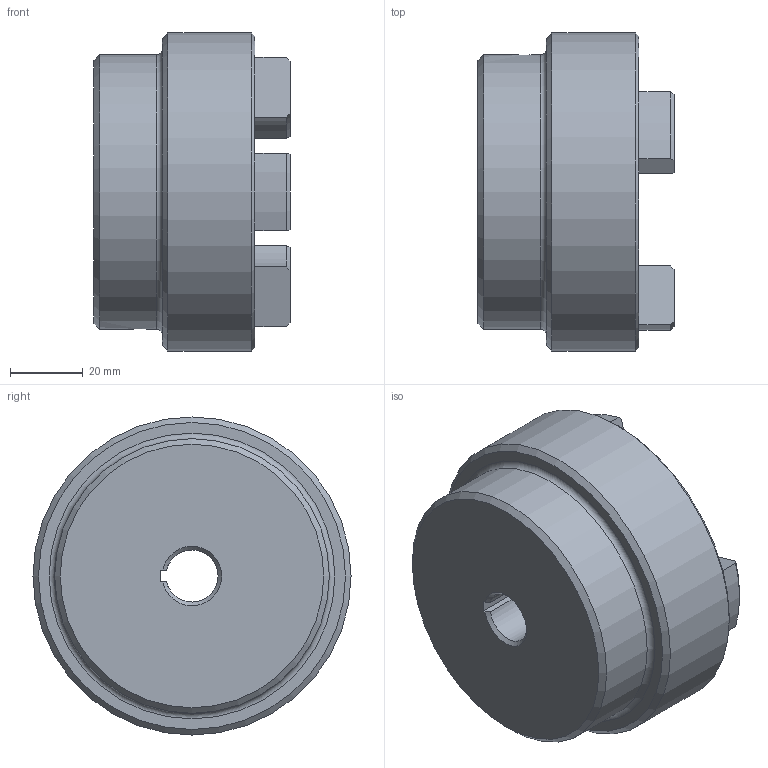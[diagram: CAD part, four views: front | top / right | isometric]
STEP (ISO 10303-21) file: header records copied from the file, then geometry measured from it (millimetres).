
FILE_DESCRIPTION (( 'STEP AP203' ), '1' );
FILE_NAME ('RC3.step', '2024-07-24T12:43:22', ( 'Adlan' ), ( '' ), 'SwSTEP 2.0', 'SolidWorks 2013', '' );
FILE_SCHEMA (( 'CONFIG_CONTROL_DESIGN' ));
Length unit declared in the file: inch
Products named in the file (1): RC3
Bounding box: 53.85 x 87.38 x 87.38 mm (x, y, z)
Volume: 190100.4 mm3; surface area: 30216.7 mm2
Topology: 1 solids, 1 shells, 70 faces, 183 edges, 115 vertices
Faces by surface type: cylinder 26, plane 19, torus 13, cone 12
Full cylindrical faces by diameter (mm): 5.105 x2, 75.438 x1, 87.376 x1
Entity records: 2389 total; most frequent: CARTESIAN_POINT 625, DIRECTION 370, ORIENTED_EDGE 332, EDGE_CURVE 166, AXIS2_PLACEMENT_3D 146, VERTEX_POINT 109, EDGE_LOOP 87, LINE 78
